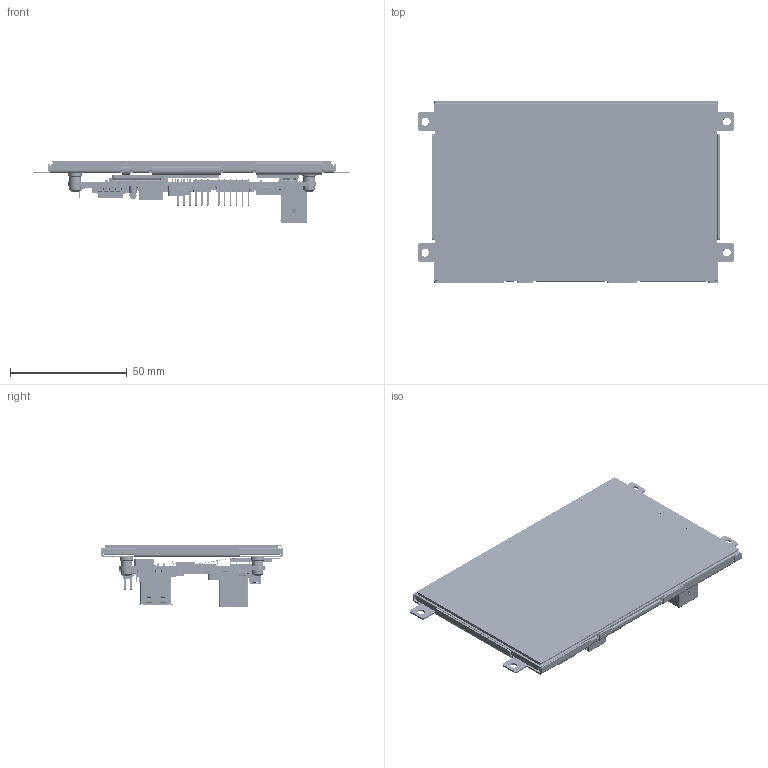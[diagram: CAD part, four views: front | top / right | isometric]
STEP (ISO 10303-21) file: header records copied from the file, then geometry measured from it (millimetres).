
FILE_DESCRIPTION(/* description */ (''),/* implementation_level */ '2;1');
FILE_NAME(/* name */ 'D:\systart\display-board\austausch\export\DCB50V_01_X.stp',/* time_stamp */ '2020-12-21T17:48:24+01:00',/* author */ ('axel'),/* organization */ (''),/* preprocessor_version */ 'ST-DEVELOPER v18.1',/* originating_system */ 'Autodesk Inventor 2021',/* authorisation */ '');
FILE_SCHEMA (('AUTOMOTIVE_DESIGN { 1 0 10303 214 3 1 1 }'));
Products named in the file (1): Bauteil1
Bounding box: 135 x 77.8 x 26.93 mm (x, y, z)
Volume: 63683.2 mm3; surface area: 104322.7 mm2
Topology: 298 solids, 3003 shells, 15983 faces, 49283 edges, 36870 vertices
Faces by surface type: plane 12623, cylinder 2202, bspline 859, sphere 158, cone 74, torus 67
Full cylindrical faces by diameter (mm): 0.1 x25, 0.15 x30, 0.18 x3, 0.181 x1, 0.3 x1, 0.35 x1, 0.394 x1, 0.4 x1, 0.412 x5, 0.5 x2, 0.65 x9, 0.8 x22, 0.92 x8, 1 x3, 1.04 x1, 1.1 x21, 1.25 x7, 1.3 x4, 1.4 x1, 1.5 x2, 1.6 x1, 2 x1, 2.013 x4, 2.25 x1, 2.5 x4, 2.7 x8, 3.1 x2, 3.5 x4, 3.79 x4, 3.8 x4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
Entity records: 582326 total; most frequent: CARTESIAN_POINT 133110, ORIENTED_EDGE 83443, DIRECTION 83025, EDGE_CURVE 49117, LINE 42619, VECTOR 42619, VERTEX_POINT 36870, AXIS2_PLACEMENT_3D 20203
